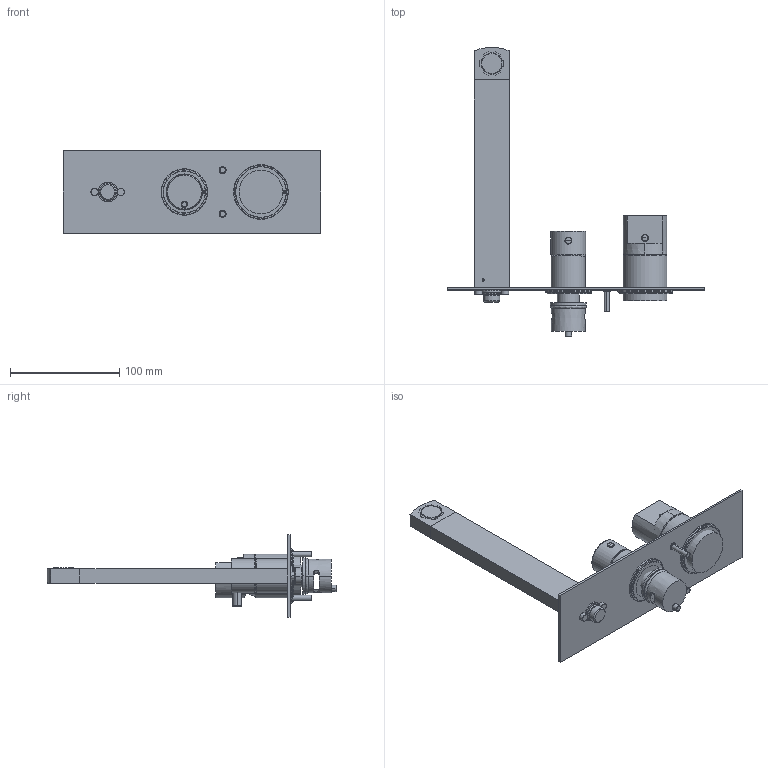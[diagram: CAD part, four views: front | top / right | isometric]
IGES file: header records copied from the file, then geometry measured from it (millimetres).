
Start section:  PTC IGES file: 89528v221_sw0001.igs
Global section: file name: 89528v221_sw0001.igs; native system: Creo Parametric by PTC Inc.; preprocessor: 2022014; author: volponeff; organization: Unknown; date: 20230605.135942; units: millimetre
Bounding box: 235 x 264.2 x 75 mm (x, y, z)
Surface area: 99122.2 mm2 (no closed solid volume)
Topology: 0 solids, 0 shells, 210 faces, 1041 edges, 1037 vertices
Faces by surface type: revolution 137, bspline 73
